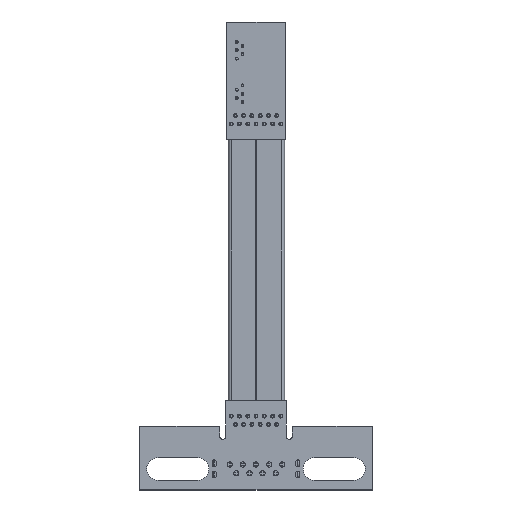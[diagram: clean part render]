
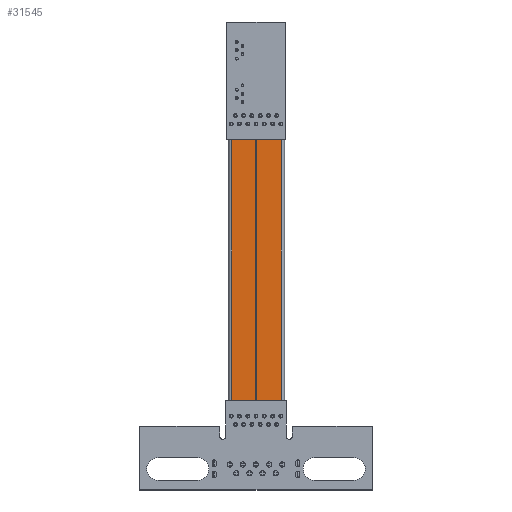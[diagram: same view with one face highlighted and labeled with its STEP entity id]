
A CAD part, top view. The second image highlights one B-rep face of the part: STEP entity #31545.
In plain terms, the highlighted planar face has unit normal (0, 0, 1) as drawn and (0, -1, 0) by its records, which use the part's own axes.
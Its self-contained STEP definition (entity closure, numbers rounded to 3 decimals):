
#31092 = EDGE_CURVE('',#31093,#31095,#31097,.T.);
#31093 = VERTEX_POINT('',#31094);
#31094 = CARTESIAN_POINT('',(-7.621,-1.201,43.));
#31095 = VERTEX_POINT('',#31096);
#31096 = CARTESIAN_POINT('',(-0.001,-1.201,43.));
#31097 = LINE('',#31098,#31099);
#31098 = CARTESIAN_POINT('',(-0.001,-1.201,43.));
#31099 = VECTOR('',#31100,1.);
#31100 = DIRECTION('',(1.,0.,0.));
#31278 = VERTEX_POINT('',#31279);
#31279 = CARTESIAN_POINT('',(-0.001,-1.201,
    0.));
#31288 = EDGE_CURVE('',#31289,#31278,#31291,.T.);
#31289 = VERTEX_POINT('',#31290);
#31290 = CARTESIAN_POINT('',(-7.621,-1.201,0.));
#31291 = LINE('',#31292,#31293);
#31292 = CARTESIAN_POINT('',(-0.001,-1.201,
    0.));
#31293 = VECTOR('',#31294,1.);
#31294 = DIRECTION('',(1.,0.,0.));
#31528 = EDGE_CURVE('',#31278,#31095,#31529,.T.);
#31529 = LINE('',#31530,#31531);
#31530 = CARTESIAN_POINT('',(-0.001,-1.201,
    0.));
#31531 = VECTOR('',#31532,1.);
#31532 = DIRECTION('',(0.,0.,1.));
#31545 = ADVANCED_FACE('',(#31546),#31557,.T.);
#31546 = FACE_BOUND('',#31547,.T.);
#31547 = EDGE_LOOP('',(#31548,#31549,#31555,#31556));
#31548 = ORIENTED_EDGE('',*,*,#31092,.F.);
#31549 = ORIENTED_EDGE('',*,*,#31550,.F.);
#31550 = EDGE_CURVE('',#31289,#31093,#31551,.T.);
#31551 = LINE('',#31552,#31553);
#31552 = CARTESIAN_POINT('',(-7.621,-1.201,0.));
#31553 = VECTOR('',#31554,1.);
#31554 = DIRECTION('',(0.,0.,1.));
#31555 = ORIENTED_EDGE('',*,*,#31288,.T.);
#31556 = ORIENTED_EDGE('',*,*,#31528,.T.);
#31557 = PLANE('',#31558);
#31558 = AXIS2_PLACEMENT_3D('',#31559,#31560,#31561);
#31559 = CARTESIAN_POINT('',(-0.001,-1.201,
    0.));
#31560 = DIRECTION('',(0.,-1.,0.));
#31561 = DIRECTION('',(0.,0.,-1.));
